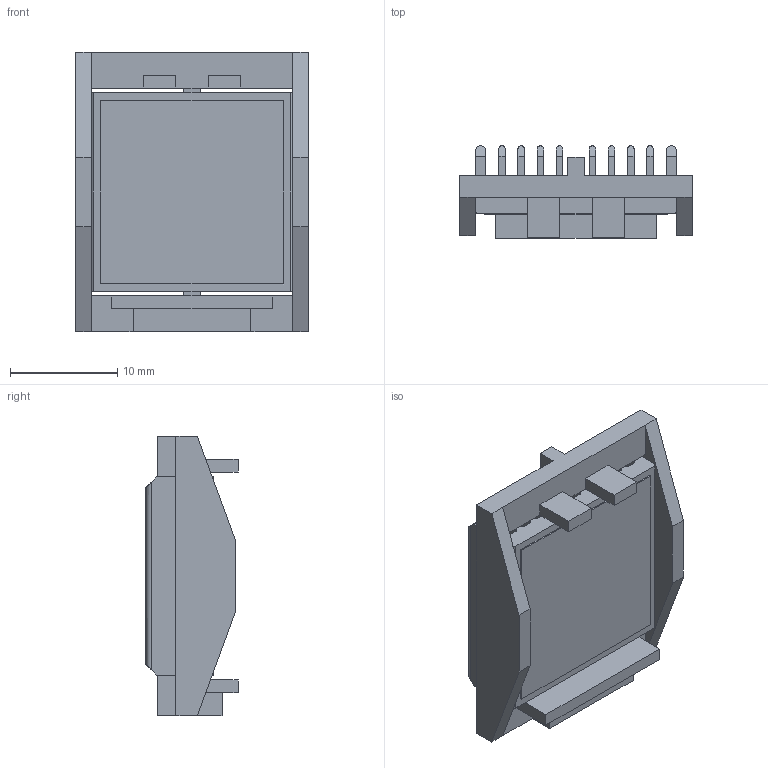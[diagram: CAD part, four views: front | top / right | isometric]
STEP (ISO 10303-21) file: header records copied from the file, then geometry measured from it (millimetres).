
FILE_DESCRIPTION (( 'STEP AP214' ), '1' );
FILE_NAME ('INL19001-6-1.7Y.STEP', '2023-02-20T23:52:51', ( '' ), ( '' ), 'SwSTEP 2.0', 'SolidWorks 2020', '' );
FILE_SCHEMA (( 'AUTOMOTIVE_DESIGN' ));
Length unit declared in the file: millimetre
Products named in the file (1): INL19001-6-1.7Y
Bounding box: 21.7 x 8.6 x 26.1 mm (x, y, z)
Volume: 2001.2 mm3; surface area: 4402.3 mm2
Topology: 3 solids, 3 shells, 136 faces, 392 edges, 260 vertices
Faces by surface type: plane 106, cylinder 30
Entity records: 5956 total; most frequent: CARTESIAN_POINT 849, ORIENTED_EDGE 784, DIRECTION 686, EDGE_CURVE 392, VECTOR 332, LINE 332, VERTEX_POINT 260, AXIS2_PLACEMENT_3D 177
